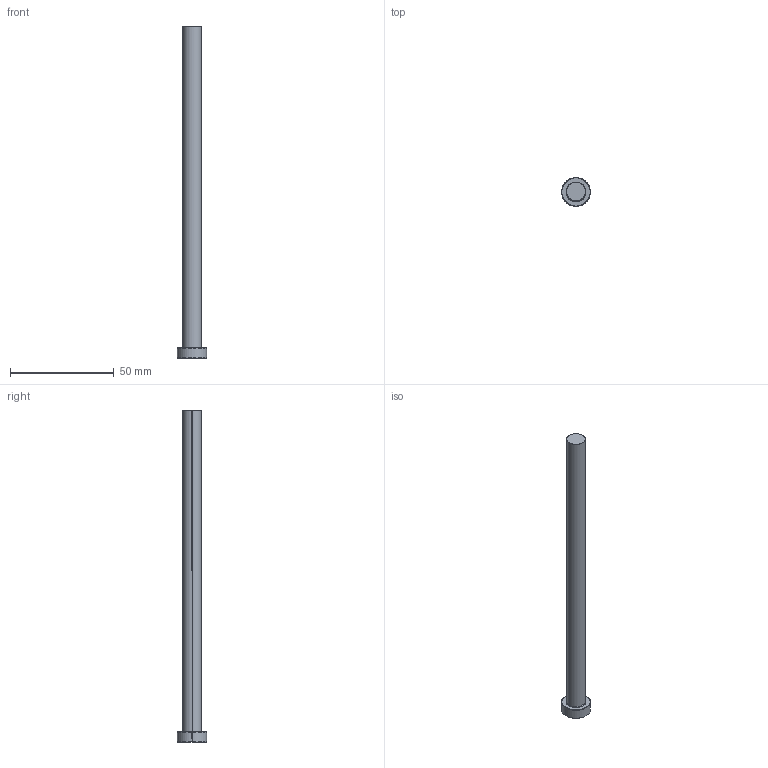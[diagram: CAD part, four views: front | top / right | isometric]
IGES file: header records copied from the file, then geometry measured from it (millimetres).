
Start section: SolidWorks IGES file using analytic representation for surfaces
Global section: file name: C:\Users\365admin\AppData\Local\Temp\InFlowXlateWorking\EPD09L160.igs; native system: SolidWorks 2018; preprocessor: SolidWorks 2018; author: 365admin; date: 200822.052425; units: millimetre
Bounding box: 14 x 14 x 160 mm (x, y, z)
Surface area: 4896.3 mm2 (no closed solid volume)
Topology: 0 solids, 0 shells, 13 faces, 168 edges, 168 vertices
Faces by surface type: revolution 8, bspline 5
